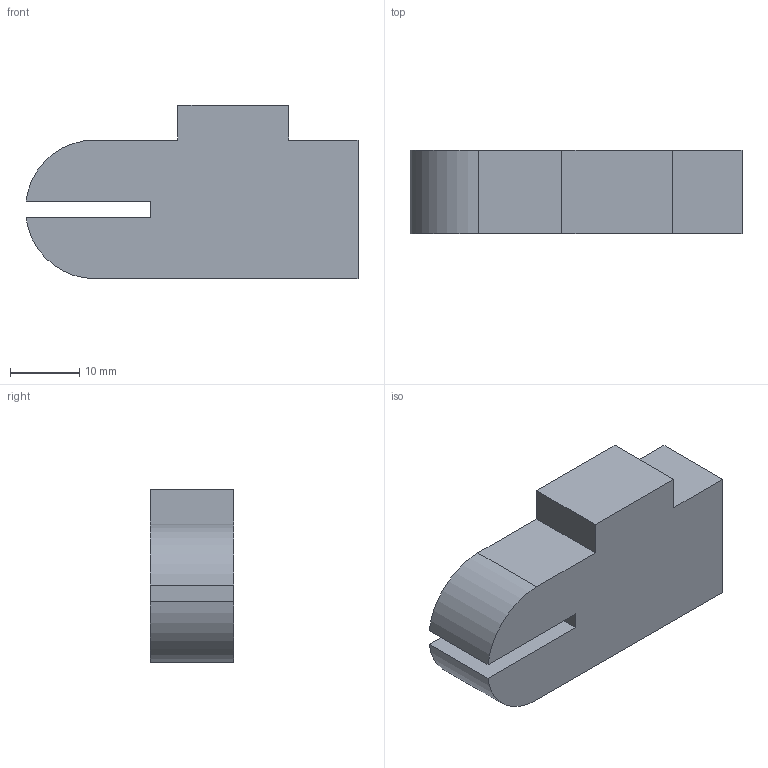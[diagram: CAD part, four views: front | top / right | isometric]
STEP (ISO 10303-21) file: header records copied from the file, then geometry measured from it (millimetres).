
FILE_DESCRIPTION(('FreeCAD Model'),'2;1');
FILE_NAME('Open CASCADE Shape Model','2026-11-08T20:38:38',('FreeCAD'),( 'FreeCAD'),'Open CASCADE STEP processor 7.8','FreeCAD','Unknown');
FILE_SCHEMA(('AUTOMOTIVE_DESIGN { 1 0 10303 214 1 1 1 1 }'));
Length unit declared in the file: millimetre
Products named in the file (1): Open CASCADE STEP translator 7.8 4
Bounding box: 47.93 x 12 x 25 mm (x, y, z)
Volume: 11391 mm3; surface area: 4127.8 mm2
Topology: 1 solids, 1 shells, 22 faces, 48 edges, 32 vertices
Faces by surface type: plane 16, cylinder 6
Full cylindrical faces by diameter (mm): 1.6 x4
Entity records: 614 total; most frequent: DIRECTION 106, CARTESIAN_POINT 103, ORIENTED_EDGE 96, EDGE_CURVE 48, LINE 36, VECTOR 36, AXIS2_PLACEMENT_3D 35, VERTEX_POINT 32
